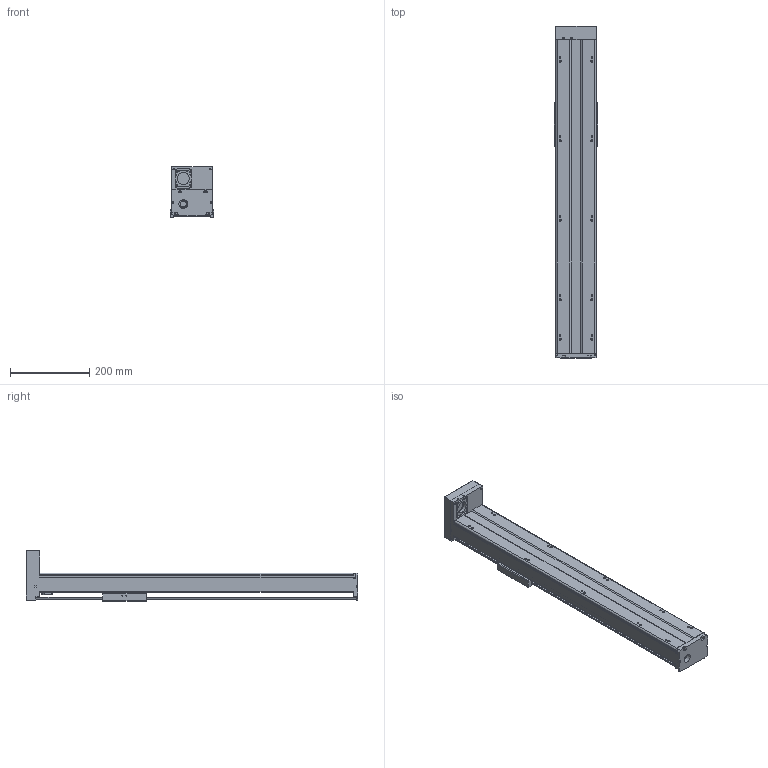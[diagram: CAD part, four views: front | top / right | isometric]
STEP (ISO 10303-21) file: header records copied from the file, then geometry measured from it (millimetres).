
FILE_DESCRIPTION(/* description */ (''),/* implementation_level */ '2;1');
FILE_NAME(/* name */ 'TKA100-FD-600_asm1.stp',/* time_stamp */ '2016-05-16T15:23:43+08:00',/* author */ (''),/* organization */ (''),/* preprocessor_version */ 'ST-DEVELOPER v15',/* originating_system */ 'SIEMENS PLM Software NX 8.5',/* authorisation */ '');
FILE_SCHEMA (('AUTOMOTIVE_DESIGN { 1 0 10303 214 3 1 1 1 }'));
Length unit declared in the file: millimetre
Products named in the file (3): 200-02; 200-01; TKA100-FD-600_asm1
Assembly tree (2 placements, depth 2):
  TKA100-FD-600_asm1
    200-01
    200-02
Bounding box: 110 x 836 x 127 mm (x, y, z)
Volume: 1844070.1 mm3; surface area: 642124.8 mm2
Topology: 2 solids, 11 shells, 786 faces, 2034 edges, 1320 vertices
Faces by surface type: cylinder 304, plane 296, cone 122, torus 38, bspline 26
Full cylindrical faces by diameter (mm): 2.5 x6, 2.6 x8, 3.3 x10, 3.4 x9, 3.8 x8, 4.2 x19, 4.3 x4, 4.5 x8, 5 x1, 5.5 x20, 6.6 x4, 8 x5, 9 x4, 10 x12, 11 x4, 12 x7, 15.3 x1, 16 x1, 22 x1, 24 x1, 28 x4, 30 x1, 33 x1
Entity records: 28212 total; most frequent: CARTESIAN_POINT 10011, DIRECTION 3798, ORIENTED_EDGE 3454, EDGE_CURVE 1727, AXIS2_PLACEMENT_3D 1518, VERTEX_POINT 1236, EDGE_LOOP 1122, ADVANCED_FACE 786
